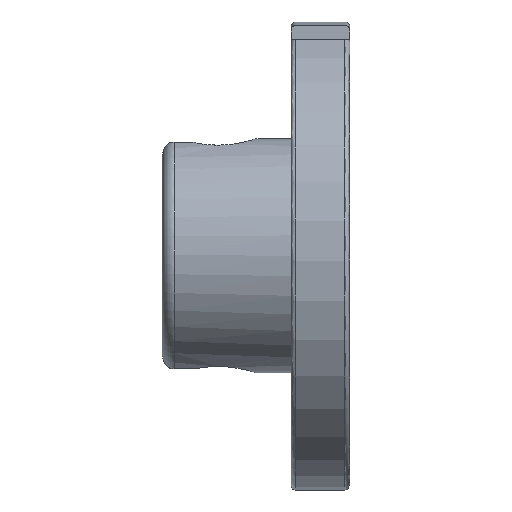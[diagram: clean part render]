
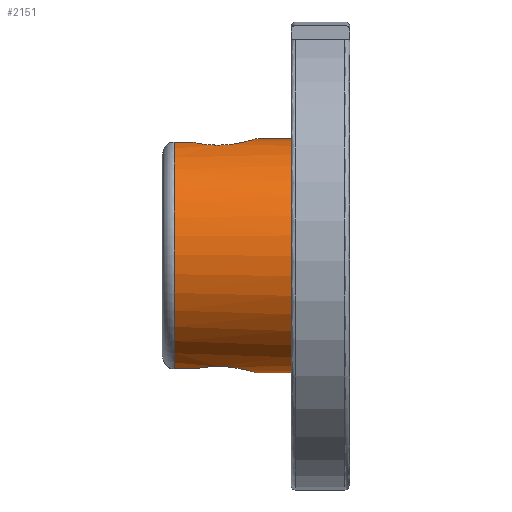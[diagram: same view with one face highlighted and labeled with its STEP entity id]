
A CAD part, left-side view. The second image highlights one B-rep face of the part: STEP entity #2151.
In plain terms, the highlighted cylindrical face has radius 40 mm (diameter 80 mm), a full revolution.
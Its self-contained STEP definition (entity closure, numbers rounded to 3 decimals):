
#53=B_SPLINE_CURVE_WITH_KNOTS('',3,(#4081,#4082,#4083,#4084,#4085,#4086,
#4087,#4088,#4089,#4090,#4091,#4092,#4093,#4094,#4095,#4096,#4097,#4098,
#4099,#4100,#4101,#4102,#4103,#4104,#4105,#4106,#4107),.UNSPECIFIED.,.F.,
 .F.,(4,2,2,2,2,2,2,2,2,2,3,2,4),(-4.777,-4.442,-3.949,
-3.455,-2.961,-2.468,-1.974,
-1.481,-0.987,-0.494,0.,0.494,
0.829),.UNSPECIFIED.);
#54=B_SPLINE_CURVE_WITH_KNOTS('',3,(#4109,#4110,#4111,#4112,#4113,#4114,
#4115,#4116,#4117,#4118,#4119,#4120,#4121,#4122,#4123,#4124,#4125,#4126,
#4127,#4128,#4129,#4130,#4131,#4132,#4133,#4134,#4135),.UNSPECIFIED.,.F.,
 .F.,(4,2,3,2,2,2,2,2,2,2,2,2,4),(-0.906,-0.494,
0.,0.494,0.987,1.481,1.974,
2.468,2.961,3.455,3.949,4.442,
4.854),.UNSPECIFIED.);
#97=CYLINDRICAL_SURFACE('',#2456,40.);
#363=FACE_OUTER_BOUND('',#523,.T.);
#523=EDGE_LOOP('',(#1986,#1987,#1988,#1989,#1990,#1991,#1992,#1993,#1994,
#1995,#1996,#1997,#1998));
#579=LINE('',#3640,#679);
#585=LINE('',#3710,#685);
#587=LINE('',#3745,#687);
#635=LINE('',#4071,#735);
#636=LINE('',#4139,#736);
#679=VECTOR('',#2782,10.);
#685=VECTOR('',#2802,10.);
#687=VECTOR('',#2836,10.);
#735=VECTOR('',#3110,10.);
#736=VECTOR('',#3121,40.);
#828=CIRCLE('',#2318,40.);
#829=CIRCLE('',#2319,40.);
#850=CIRCLE('',#2353,40.);
#851=CIRCLE('',#2354,40.);
#906=CIRCLE('',#2455,40.);
#1023=VERTEX_POINT('',#3630);
#1024=VERTEX_POINT('',#3639);
#1027=VERTEX_POINT('',#3660);
#1028=VERTEX_POINT('',#3669);
#1031=VERTEX_POINT('',#3708);
#1039=VERTEX_POINT('',#3735);
#1040=VERTEX_POINT('',#3744);
#1055=VERTEX_POINT('',#3782);
#1056=VERTEX_POINT('',#3783);
#1116=VERTEX_POINT('',#4068);
#1117=VERTEX_POINT('',#4070);
#1265=EDGE_CURVE('',#1024,#1023,#579,.T.);
#1270=EDGE_CURVE('',#1027,#1028,#828,.T.);
#1271=EDGE_CURVE('',#1028,#1023,#829,.T.);
#1278=EDGE_CURVE('',#1027,#1031,#585,.T.);
#1291=EDGE_CURVE('',#1040,#1039,#587,.T.);
#1310=EDGE_CURVE('',#1055,#1056,#850,.T.);
#1311=EDGE_CURVE('',#1056,#1055,#851,.T.);
#1413=EDGE_CURVE('',#1117,#1116,#635,.T.);
#1415=EDGE_CURVE('',#1116,#1024,#53,.T.);
#1416=EDGE_CURVE('',#1031,#1040,#54,.T.);
#1417=EDGE_CURVE('',#1117,#1039,#906,.T.);
#1418=EDGE_CURVE('',#1028,#1056,#636,.T.);
#1986=ORIENTED_EDGE('',*,*,#1278,.T.);
#1987=ORIENTED_EDGE('',*,*,#1416,.T.);
#1988=ORIENTED_EDGE('',*,*,#1291,.T.);
#1989=ORIENTED_EDGE('',*,*,#1417,.F.);
#1990=ORIENTED_EDGE('',*,*,#1413,.T.);
#1991=ORIENTED_EDGE('',*,*,#1415,.T.);
#1992=ORIENTED_EDGE('',*,*,#1265,.T.);
#1993=ORIENTED_EDGE('',*,*,#1271,.F.);
#1994=ORIENTED_EDGE('',*,*,#1418,.T.);
#1995=ORIENTED_EDGE('',*,*,#1311,.T.);
#1996=ORIENTED_EDGE('',*,*,#1310,.T.);
#1997=ORIENTED_EDGE('',*,*,#1418,.F.);
#1998=ORIENTED_EDGE('',*,*,#1270,.F.);
#2151=ADVANCED_FACE('',(#363),#97,.T.);
#2318=AXIS2_PLACEMENT_3D('',#3670,#2788,#2789);
#2319=AXIS2_PLACEMENT_3D('',#3671,#2790,#2791);
#2353=AXIS2_PLACEMENT_3D('',#3784,#2873,#2874);
#2354=AXIS2_PLACEMENT_3D('',#3785,#2875,#2876);
#2455=AXIS2_PLACEMENT_3D('',#4137,#3117,#3118);
#2456=AXIS2_PLACEMENT_3D('',#4138,#3119,#3120);
#2782=DIRECTION('',(0.,1.,0.));
#2788=DIRECTION('center_axis',(0.,1.,0.));
#2789=DIRECTION('ref_axis',(-1.,0.,0.));
#2790=DIRECTION('center_axis',(0.,1.,0.));
#2791=DIRECTION('ref_axis',(-1.,0.,0.));
#2802=DIRECTION('',(0.,-1.,0.));
#2836=DIRECTION('',(0.,1.,0.));
#2873=DIRECTION('center_axis',(0.,1.,0.));
#2874=DIRECTION('ref_axis',(-1.,0.,0.));
#2875=DIRECTION('center_axis',(0.,1.,0.));
#2876=DIRECTION('ref_axis',(-1.,0.,0.));
#3110=DIRECTION('',(0.,-1.,0.));
#3117=DIRECTION('center_axis',(0.,1.,0.));
#3118=DIRECTION('ref_axis',(-1.,0.,0.));
#3119=DIRECTION('center_axis',(0.,1.,0.));
#3120=DIRECTION('ref_axis',(-1.,0.,0.));
#3121=DIRECTION('',(0.,-1.,0.));
#3630=CARTESIAN_POINT('',(10.25,60.,-38.664));
#3639=CARTESIAN_POINT('',(10.25,52.996,-38.664));
#3640=CARTESIAN_POINT('',(10.25,40.,-38.664));
#3660=CARTESIAN_POINT('',(9.75,60.,38.794));
#3669=CARTESIAN_POINT('',(40.,60.,0.));
#3670=CARTESIAN_POINT('Origin',(0.,60.,0.));
#3671=CARTESIAN_POINT('Origin',(0.,60.,0.));
#3708=CARTESIAN_POINT('',(9.75,53.599,38.794));
#3710=CARTESIAN_POINT('',(9.75,40.,38.794));
#3735=CARTESIAN_POINT('',(-9.75,60.,38.794));
#3744=CARTESIAN_POINT('',(-9.75,53.599,38.794));
#3745=CARTESIAN_POINT('',(-9.75,40.,38.794));
#3782=CARTESIAN_POINT('',(-40.,20.,0.));
#3783=CARTESIAN_POINT('',(40.,20.,0.));
#3784=CARTESIAN_POINT('Origin',(0.,20.,0.));
#3785=CARTESIAN_POINT('Origin',(0.,20.,0.));
#4068=CARTESIAN_POINT('',(-10.25,52.996,-38.664));
#4070=CARTESIAN_POINT('',(-10.25,60.,-38.664));
#4071=CARTESIAN_POINT('',(-10.25,40.,-38.664));
#4081=CARTESIAN_POINT('Ctrl Pts',(-10.25,52.996,-38.664));
#4082=CARTESIAN_POINT('Ctrl Pts',(-10.952,52.097,-38.478));
#4083=CARTESIAN_POINT('Ctrl Pts',(-11.553,51.076,-38.298));
#4084=CARTESIAN_POINT('Ctrl Pts',(-12.669,48.392,-37.947));
#4085=CARTESIAN_POINT('Ctrl Pts',(-13.,46.646,-37.829));
#4086=CARTESIAN_POINT('Ctrl Pts',(-13.,43.354,-37.829));
#4087=CARTESIAN_POINT('Ctrl Pts',(-12.669,41.608,-37.947));
#4088=CARTESIAN_POINT('Ctrl Pts',(-11.338,38.409,-38.366));
#4089=CARTESIAN_POINT('Ctrl Pts',(-10.34,36.955,-38.658));
#4090=CARTESIAN_POINT('Ctrl Pts',(-8.045,34.66,-39.2));
#4091=CARTESIAN_POINT('Ctrl Pts',(-6.591,33.662,-39.486));
#4092=CARTESIAN_POINT('Ctrl Pts',(-3.392,32.331,-39.889));
#4093=CARTESIAN_POINT('Ctrl Pts',(-1.645,32.,-40.));
#4094=CARTESIAN_POINT('Ctrl Pts',(1.645,32.,-40.));
#4095=CARTESIAN_POINT('Ctrl Pts',(3.392,32.331,-39.889));
#4096=CARTESIAN_POINT('Ctrl Pts',(6.591,33.662,-39.486));
#4097=CARTESIAN_POINT('Ctrl Pts',(8.045,34.66,-39.2));
#4098=CARTESIAN_POINT('Ctrl Pts',(10.34,36.955,-38.658));
#4099=CARTESIAN_POINT('Ctrl Pts',(11.338,38.409,-38.366));
#4100=CARTESIAN_POINT('Ctrl Pts',(12.669,41.608,-37.947));
#4101=CARTESIAN_POINT('Ctrl Pts',(13.,43.354,-37.829));
#4102=CARTESIAN_POINT('Ctrl Pts',(13.,45.,-37.829));
#4103=CARTESIAN_POINT('Ctrl Pts',(13.,46.646,-37.829));
#4104=CARTESIAN_POINT('Ctrl Pts',(12.669,48.392,-37.947));
#4105=CARTESIAN_POINT('Ctrl Pts',(11.553,51.076,-38.298));
#4106=CARTESIAN_POINT('Ctrl Pts',(10.952,52.097,-38.478));
#4107=CARTESIAN_POINT('Ctrl Pts',(10.25,52.996,-38.664));
#4109=CARTESIAN_POINT('Ctrl Pts',(9.75,53.599,38.794));
#4110=CARTESIAN_POINT('Ctrl Pts',(10.664,52.562,38.564));
#4111=CARTESIAN_POINT('Ctrl Pts',(11.449,51.326,38.331));
#4112=CARTESIAN_POINT('Ctrl Pts',(12.669,48.392,37.947));
#4113=CARTESIAN_POINT('Ctrl Pts',(13.,46.646,37.829));
#4114=CARTESIAN_POINT('Ctrl Pts',(13.,45.,37.829));
#4115=CARTESIAN_POINT('Ctrl Pts',(13.,43.354,37.829));
#4116=CARTESIAN_POINT('Ctrl Pts',(12.669,41.608,37.947));
#4117=CARTESIAN_POINT('Ctrl Pts',(11.338,38.409,38.366));
#4118=CARTESIAN_POINT('Ctrl Pts',(10.34,36.955,38.658));
#4119=CARTESIAN_POINT('Ctrl Pts',(8.045,34.66,39.2));
#4120=CARTESIAN_POINT('Ctrl Pts',(6.591,33.662,39.486));
#4121=CARTESIAN_POINT('Ctrl Pts',(3.392,32.331,39.889));
#4122=CARTESIAN_POINT('Ctrl Pts',(1.645,32.,40.));
#4123=CARTESIAN_POINT('Ctrl Pts',(-1.645,32.,40.));
#4124=CARTESIAN_POINT('Ctrl Pts',(-3.392,32.331,39.889));
#4125=CARTESIAN_POINT('Ctrl Pts',(-6.591,33.662,39.486));
#4126=CARTESIAN_POINT('Ctrl Pts',(-8.045,34.66,39.2));
#4127=CARTESIAN_POINT('Ctrl Pts',(-10.34,36.955,38.658));
#4128=CARTESIAN_POINT('Ctrl Pts',(-11.338,38.409,38.366));
#4129=CARTESIAN_POINT('Ctrl Pts',(-12.669,41.608,37.947));
#4130=CARTESIAN_POINT('Ctrl Pts',(-13.,43.354,37.829));
#4131=CARTESIAN_POINT('Ctrl Pts',(-13.,46.646,37.829));
#4132=CARTESIAN_POINT('Ctrl Pts',(-12.669,48.392,37.947));
#4133=CARTESIAN_POINT('Ctrl Pts',(-11.449,51.326,38.331));
#4134=CARTESIAN_POINT('Ctrl Pts',(-10.664,52.562,38.564));
#4135=CARTESIAN_POINT('Ctrl Pts',(-9.75,53.599,38.794));
#4137=CARTESIAN_POINT('Origin',(0.,60.,0.));
#4138=CARTESIAN_POINT('Origin',(0.,40.,0.));
#4139=CARTESIAN_POINT('',(40.,40.,0.));
